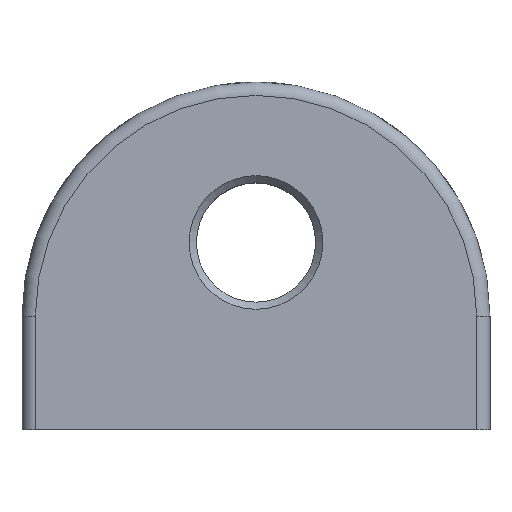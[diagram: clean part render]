
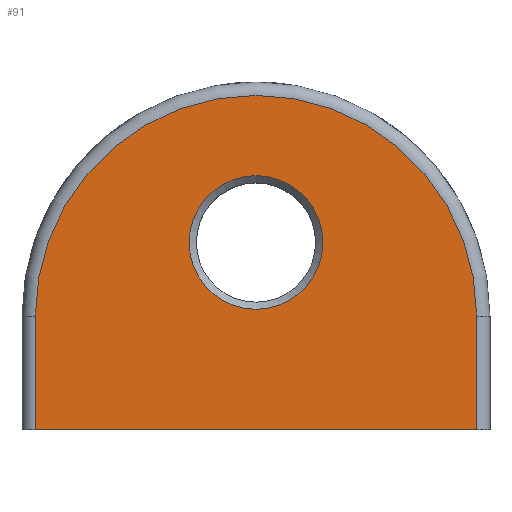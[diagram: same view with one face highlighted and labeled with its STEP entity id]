
A CAD part, top view. The second image highlights one B-rep face of the part: STEP entity #91.
In plain terms, the highlighted planar face has unit normal (0, 0, 1).
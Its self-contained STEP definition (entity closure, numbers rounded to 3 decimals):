
#91 = ADVANCED_FACE( '', ( #167, #168 ), #169, .F. );
#167 = FACE_BOUND( '', #296, .T. );
#168 = FACE_OUTER_BOUND( '', #297, .T. );
#169 = PLANE( '', #298 );
#296 = EDGE_LOOP( '', ( #491 ) );
#297 = EDGE_LOOP( '', ( #492, #493, #494, #495 ) );
#298 = AXIS2_PLACEMENT_3D( '', #496, #497, #498 );
#491 = ORIENTED_EDGE( '', *, *, #743, .T. );
#492 = ORIENTED_EDGE( '', *, *, #778, .F. );
#493 = ORIENTED_EDGE( '', *, *, #750, .F. );
#494 = ORIENTED_EDGE( '', *, *, #779, .T. );
#495 = ORIENTED_EDGE( '', *, *, #780, .T. );
#496 = CARTESIAN_POINT( '', ( -16.5, 8.5, 6. ) );
#497 = DIRECTION( '', ( 0., 0., -1. ) );
#498 = DIRECTION( '', ( -1., 0., 0. ) );
#743 = EDGE_CURVE( '', #848, #848, #849, .T. );
#750 = EDGE_CURVE( '', #861, #863, #864, .T. );
#778 = EDGE_CURVE( '', #863, #912, #913, .T. );
#779 = EDGE_CURVE( '', #861, #914, #915, .T. );
#780 = EDGE_CURVE( '', #914, #912, #916, .T. );
#848 = VERTEX_POINT( '', #1126 );
#849 = CIRCLE( '', #1127, 5. );
#861 = VERTEX_POINT( '', #1139 );
#863 = VERTEX_POINT( '', #1141 );
#864 = CIRCLE( '', #1142, 16.5 );
#912 = VERTEX_POINT( '', #1240 );
#913 = LINE( '', #1241, #1242 );
#914 = VERTEX_POINT( '', #1243 );
#915 = LINE( '', #1244, #1245 );
#916 = LINE( '', #1246, #1247 );
#1126 = CARTESIAN_POINT( '', ( -5., 14., 6. ) );
#1127 = AXIS2_PLACEMENT_3D( '', #1423, #1424, #1425 );
#1139 = CARTESIAN_POINT( '', ( -16.5, 8.5, 6. ) );
#1141 = CARTESIAN_POINT( '', ( 16.5, 8.5, 6. ) );
#1142 = AXIS2_PLACEMENT_3D( '', #1444, #1445, #1446 );
#1240 = CARTESIAN_POINT( '', ( 16.5, 0., 6. ) );
#1241 = CARTESIAN_POINT( '', ( 16.5, 8.5, 6. ) );
#1242 = VECTOR( '', #1497, 1000. );
#1243 = CARTESIAN_POINT( '', ( -16.5, 0., 6. ) );
#1244 = CARTESIAN_POINT( '', ( -16.5, 8.5, 6. ) );
#1245 = VECTOR( '', #1498, 1000. );
#1246 = CARTESIAN_POINT( '', ( -16.5, 0., 6. ) );
#1247 = VECTOR( '', #1499, 1000. );
#1423 = CARTESIAN_POINT( '', ( 0., 14., 6. ) );
#1424 = DIRECTION( '', ( 0., 0., -1. ) );
#1425 = DIRECTION( '', ( -1., 0., 0. ) );
#1444 = CARTESIAN_POINT( '', ( 0., 8.5, 6. ) );
#1445 = DIRECTION( '', ( 0., 0., -1. ) );
#1446 = DIRECTION( '', ( -1., 0., 0. ) );
#1497 = DIRECTION( '', ( 0., -1., 0. ) );
#1498 = DIRECTION( '', ( 0., -1., 0. ) );
#1499 = DIRECTION( '', ( 1., 0., 0. ) );
